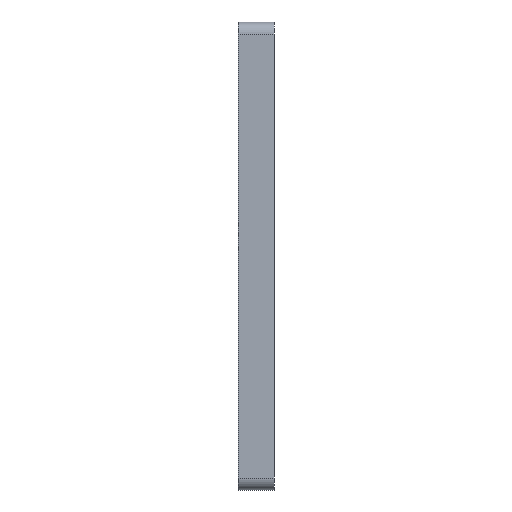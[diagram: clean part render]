
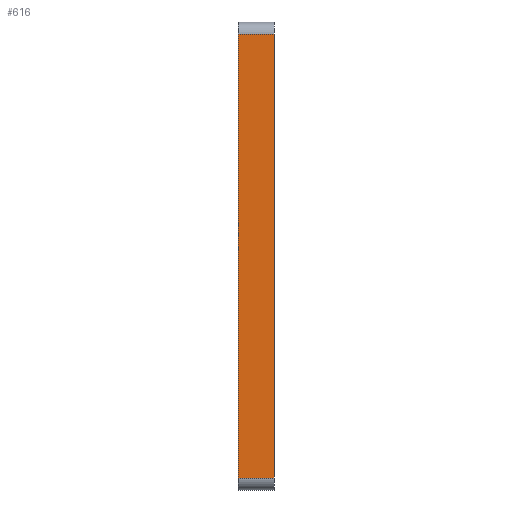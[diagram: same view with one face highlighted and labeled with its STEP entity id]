
A CAD part, left-side view. The second image highlights one B-rep face of the part: STEP entity #616.
In plain terms, the highlighted planar face has unit normal (-1, 0, 0).
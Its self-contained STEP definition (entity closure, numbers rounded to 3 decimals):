
#616 = ADVANCED_FACE ( 'NONE', ( #4130 ), #2923, .F. ) ;
#1003 = LINE ( 'NONE', #8329, #9252 ) ;
#1255 = LINE ( 'NONE', #12651, #11757 ) ;
#1319 = VERTEX_POINT ( 'NONE', #2649 ) ;
#1377 = DIRECTION ( 'NONE',  ( 0., -1., 0. ) ) ;
#2031 = EDGE_CURVE ( 'NONE', #4583, #1319, #8618, .T. ) ;
#2186 = VERTEX_POINT ( 'NONE', #5277 ) ;
#2649 = CARTESIAN_POINT ( 'NONE',  ( -19.5, 0., 18.5 ) ) ;
#2912 = CARTESIAN_POINT ( 'NONE',  ( -19.5, 3., 18.5 ) ) ;
#2923 = PLANE ( 'NONE',  #3015 ) ;
#3015 = AXIS2_PLACEMENT_3D ( 'NONE', #4936, #6871, #13160 ) ;
#3198 = DIRECTION ( 'NONE',  ( 0., 1., 0. ) ) ;
#4130 = FACE_OUTER_BOUND ( 'NONE', #6602, .T. ) ;
#4277 = EDGE_CURVE ( 'NONE', #2186, #4583, #1255, .T. ) ;
#4400 = VECTOR ( 'NONE', #10599, 1000. ) ;
#4575 = ORIENTED_EDGE ( 'NONE', *, *, #7901, .F. ) ;
#4583 = VERTEX_POINT ( 'NONE', #8649 ) ;
#4936 = CARTESIAN_POINT ( 'NONE',  ( -19.5, 3., -19.5 ) ) ;
#4944 = EDGE_CURVE ( 'NONE', #1319, #12550, #1003, .T. ) ;
#5277 = CARTESIAN_POINT ( 'NONE',  ( -19.5, 3., -18.5 ) ) ;
#5644 = ORIENTED_EDGE ( 'NONE', *, *, #4944, .T. ) ;
#5759 = ORIENTED_EDGE ( 'NONE', *, *, #2031, .T. ) ;
#6602 = EDGE_LOOP ( 'NONE', ( #4575, #7243, #5759, #5644 ) ) ;
#6871 = DIRECTION ( 'NONE',  ( 1., 0., 0. ) ) ;
#6979 = LINE ( 'NONE', #7959, #8927 ) ;
#7243 = ORIENTED_EDGE ( 'NONE', *, *, #4277, .T. ) ;
#7901 = EDGE_CURVE ( 'NONE', #2186, #12550, #6979, .T. ) ;
#7959 = CARTESIAN_POINT ( 'NONE',  ( -19.5, 3., -19.5 ) ) ;
#8329 = CARTESIAN_POINT ( 'NONE',  ( -19.5, 3., 18.5 ) ) ;
#8618 = LINE ( 'NONE', #9547, #4400 ) ;
#8649 = CARTESIAN_POINT ( 'NONE',  ( -19.5, 0., -18.5 ) ) ;
#8927 = VECTOR ( 'NONE', #10138, 1000. ) ;
#9252 = VECTOR ( 'NONE', #3198, 1000. ) ;
#9547 = CARTESIAN_POINT ( 'NONE',  ( -19.5, 0., -19.5 ) ) ;
#10138 = DIRECTION ( 'NONE',  ( 0., 0., 1. ) ) ;
#10599 = DIRECTION ( 'NONE',  ( 0., 0., 1. ) ) ;
#11757 = VECTOR ( 'NONE', #1377, 1000. ) ;
#12550 = VERTEX_POINT ( 'NONE', #2912 ) ;
#12651 = CARTESIAN_POINT ( 'NONE',  ( -19.5, 3., -18.5 ) ) ;
#13160 = DIRECTION ( 'NONE',  ( 0., 0., -1. ) ) ;
